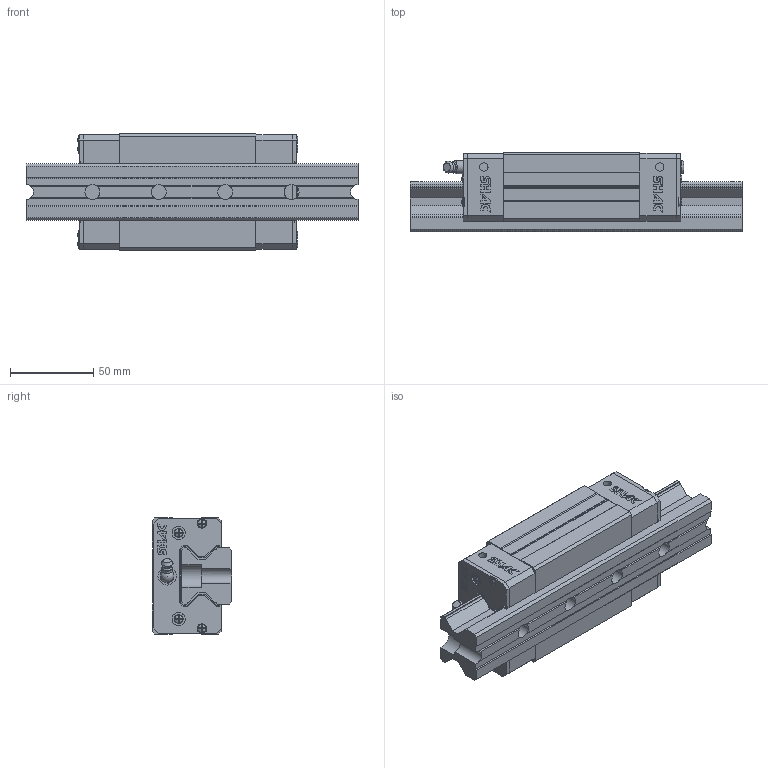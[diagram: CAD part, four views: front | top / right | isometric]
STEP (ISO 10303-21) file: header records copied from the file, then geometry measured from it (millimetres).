
FILE_DESCRIPTION( ( 'STEP AP214' ), '1' );
FILE_NAME( 'F:/品牌/SHAC 台湾鼎翰传动科技有限公司/3D滑块/GRL35CA1R200Z0CRC-0_0_1_1__.stp', '2025-04-21T22:52:29', ( 'License CC BY-ND 4.0' ), ( 'CADENAS' ), ' ', 'PARTsolutions', ' ' );
FILE_SCHEMA( ( 'AUTOMOTIVE_DESIGN { 1 0 10303 214 1 1 1 1 }' ) );
Length unit declared in the file: millimetre
Products named in the file (8): GRL35CA1R200Z0CRC-0/0(1_1_); _GR35R200-0/0(1)_RAIL; _GRL35CA_slider; _GRL35_C; _GRL35_P; _GR35_SCREW; _GH35_BOLT; _GH35-_G
Assembly tree (16 placements, depth 2):
  GRL35CA1R200Z0CRC-0/0(1_1_)
    _GR35R200-0/0(1)_RAIL
    _GRL35CA_slider
    _GRL35_C  x2
    _GRL35_P  x2
    _GR35_SCREW  x8
    _GH35_BOLT
    _GH35-_G
Bounding box: 200 x 48 x 70 mm (x, y, z)
Volume: 439325.6 mm3; surface area: 95630.9 mm2
Topology: 16 solids, 16 shells, 896 faces, 2401 edges, 1587 vertices
Faces by surface type: plane 726, cylinder 128, cone 22, torus 10, sphere 9, bspline 1
Full cylindrical faces by diameter (mm): 3.4 x4, 4.5 x5, 5 x6, 5.3 x8, 6 x2, 6.6 x2, 6.647 x6, 8 x5, 8.2 x1, 9 x4, 10.2 x2, 11 x2, 14 x4
Entity records: 20075 total; most frequent: CARTESIAN_POINT 2943, ORIENTED_EDGE 2642, DIRECTION 2586, EDGE_CURVE 1321, LINE 1056, VECTOR 1056, VERTEX_POINT 902, AXIS2_PLACEMENT_3D 765
